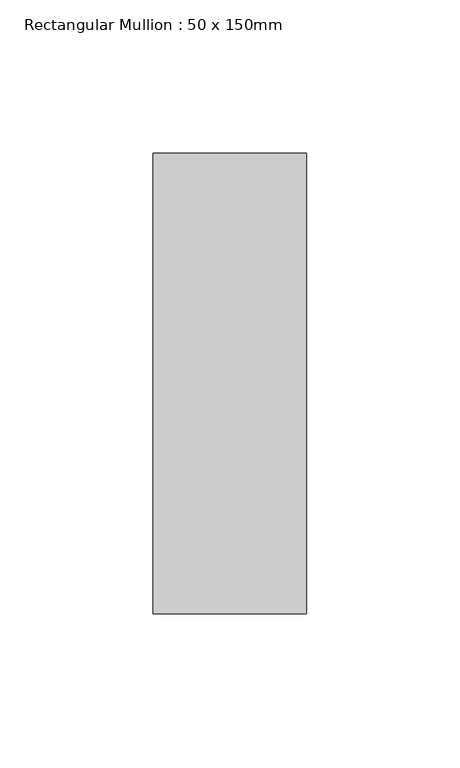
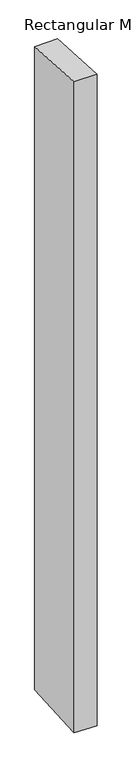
"""IFC4 building model written with IfcOpenShell, lengths in millimetres: member geometry, Rectangular Mullion : 50 x 150mm."""

import ifcopenshell
import ifcopenshell.guid

model = None  # the IFC model being written
_history = None  # IfcOwnerHistory: only IFC2X3 demands one
_inside = {}  # id of a spatial element -> (the spatial element, [elements in it])
_under = {}  # id of a project, library or spatial element -> (it, [spatial elements below it])
_declared = {}  # id of a project -> (the project, [libraries it declares])
_typed = {}  # id of a type object -> (the type object, [elements of that type])
_made_of = {}  # id of a material, layer set ... -> (it, [elements and type objects made of it])


def new_model(schema):
    """Start an empty IFC model of exactly this schema.

    Asked for "IFC4X3", IfcOpenShell would pick the latest addendum, in which some entities
    have other attributes; the version numbers below select the first issue.
    IFC2X3 requires an IfcOwnerHistory on every rooted entity: one is made here for all.
    """
    global model, _history
    if schema == "IFC4X3":
        model = ifcopenshell.file(schema_version=(4, 3, 0, 0))
    else:
        model = ifcopenshell.file(schema=schema)
    _inside.clear()
    _under.clear()
    _declared.clear()
    _typed.clear()
    _made_of.clear()
    _history = None
    if model.schema == "IFC2X3":
        org = make("IfcOrganization", Name="unknown")
        user = make(
            "IfcPersonAndOrganization",
            ThePerson=make("IfcPerson", FamilyName="unknown"),
            TheOrganization=org,
        )
        app = make(
            "IfcApplication",
            ApplicationDeveloper=org,
            Version="unknown",
            ApplicationFullName="unknown",
            ApplicationIdentifier="unknown",
        )
        _history = make(
            "IfcOwnerHistory",
            OwningUser=user,
            OwningApplication=app,
            ChangeAction="ADDED",
            CreationDate=0,
        )
    return model


def make(cls, **values):
    """One entity of the class cls with the attributes given. An attribute that is None is left unset."""
    return model.create_entity(
        cls, **{name: value for name, value in values.items() if value is not None}
    )


def rooted(cls, **values):
    """An entity with a GlobalId (a new one), such as an element, a storey or a relation."""
    return make(cls, GlobalId=ifcopenshell.guid.new(), OwnerHistory=_history, **values)


def si_unit(unit_type, name, prefix=None):
    """IfcSIUnit, for example si_unit("LENGTHUNIT", "METRE", prefix="MILLI")."""
    return make("IfcSIUnit", UnitType=unit_type, Prefix=prefix, Name=name)


def assignment(units):
    """IfcUnitAssignment: the units of a project."""
    return None if units is None else make("IfcUnitAssignment", Units=units)


def point(xyz):
    """IfcCartesianPoint."""
    return None if xyz is None else make("IfcCartesianPoint", Coordinates=xyz)


def direction(xyz):
    """IfcDirection."""
    return None if xyz is None else make("IfcDirection", DirectionRatios=xyz)


def frame(location, z_axis=None, x_axis=None):
    """IfcAxis2Placement3D, a coordinate frame: its origin and axes. An axis left out is left unset."""
    return make(
        "IfcAxis2Placement3D",
        Location=point(location),
        Axis=direction(z_axis),
        RefDirection=direction(x_axis),
    )


def origin():
    """The frame at (0, 0, 0) with its axes left unset."""
    return frame((0.0, 0.0, 0.0))


def place(relative_to, where):
    """IfcLocalPlacement: puts the frame where relative to a parent placement (None: the world)."""
    return make(
        "IfcLocalPlacement", PlacementRelTo=relative_to, RelativePlacement=where
    )


def context(
    kind, dimensions, precision=None, world=None, true_north=None, identifier=None
):
    """IfcGeometricRepresentationContext, for example the 3D "Model" context."""
    return make(
        "IfcGeometricRepresentationContext",
        ContextIdentifier=identifier,
        ContextType=kind,
        CoordinateSpaceDimension=dimensions,
        Precision=precision,
        WorldCoordinateSystem=world,
        TrueNorth=true_north,
    )


def project(units=None, contexts=None):
    """IfcProject with its units and contexts."""
    return rooted(
        "IfcProject",
        Name="project",
        RepresentationContexts=contexts,
        UnitsInContext=assignment(units),
    )


def spatial(cls, under=None, at=None, **own):
    """A site, building, storey or space (cls), placed at a placement, below another one or the project."""
    s = rooted(cls, ObjectPlacement=at, **own)
    if under is not None:
        _under.setdefault(under.id(), (under, []))[1].append(s)
    return s


def faces_of(points, faces, orient=None, outer=None):
    """IfcFace entities. A face is a list of loops; a loop is a list of indices into points, from 0.

    orient and outer hold one flag for each loop. By default every Orientation is true, the
    first loop of a face is its IfcFaceOuterBound and the others are IfcFaceBound.
    """
    made = []
    for i, loops in enumerate(faces):
        bounds = []
        for j, loop in enumerate(loops):
            is_outer = j == 0 if outer is None else outer[i][j]
            bounds.append(
                make(
                    "IfcFaceOuterBound" if is_outer else "IfcFaceBound",
                    Bound=make("IfcPolyLoop", Polygon=[points[k] for k in loop]),
                    Orientation=True if orient is None else orient[i][j],
                )
            )
        made.append(make("IfcFace", Bounds=bounds))
    return made


def faceted_brep(points, faces, orient=None, outer=None, voids=None):
    """IfcFacetedBrep: a solid bounded by flat faces; with voids (closed shells), ...WithVoids."""
    shared = [point(p) for p in points]
    hull = make("IfcClosedShell", CfsFaces=faces_of(shared, faces, orient, outer))
    if voids is None:
        return make("IfcFacetedBrep", Outer=hull)
    return make(
        "IfcFacetedBrepWithVoids",
        Outer=hull,
        Voids=[
            make(cls, CfsFaces=faces_of(shared, fs, o, b)) for cls, fs, o, b in voids
        ],
    )


def shape(context_of_items, identifier, shape_type, items):
    """IfcShapeRepresentation: the items that make up one representation, for example the "Body"."""
    return make(
        "IfcShapeRepresentation",
        ContextOfItems=context_of_items,
        RepresentationIdentifier=identifier,
        RepresentationType=shape_type,
        Items=items,
    )


def source(mapping_origin, context_of_items, identifier, shape_type, items):
    """IfcRepresentationMap: a shape defined once, which mapped items show again and again."""
    return make(
        "IfcRepresentationMap",
        MappingOrigin=mapping_origin,
        MappedRepresentation=shape(context_of_items, identifier, shape_type, items),
    )


def transform(
    local_origin,
    x_axis=None,
    y_axis=None,
    z_axis=None,
    scale=None,
    scale2=None,
    scale3=None,
    uniform=True,
):
    """IfcCartesianTransformationOperator3D, or its non-uniform kind. x_axis, y_axis, z_axis: its Axis1, 2, 3."""
    if uniform:
        return make(
            "IfcCartesianTransformationOperator3D",
            Axis1=direction(x_axis),
            Axis2=direction(y_axis),
            LocalOrigin=point(local_origin),
            Scale=scale,
            Axis3=direction(z_axis),
        )
    return make(
        "IfcCartesianTransformationOperator3DnonUniform",
        Axis1=direction(x_axis),
        Axis2=direction(y_axis),
        LocalOrigin=point(local_origin),
        Scale=scale,
        Axis3=direction(z_axis),
        Scale2=scale2,
        Scale3=scale3,
    )


def mapped(mapping_source, mapping_target):
    """IfcMappedItem: shows the shape of a source again, moved by a transform."""
    return make(
        "IfcMappedItem", MappingSource=mapping_source, MappingTarget=mapping_target
    )


def made_of(thing, what):
    """Note that an element or type object is made of a material, layer set ...; save() writes the relation."""
    if what is not None:
        _made_of.setdefault(what.id(), (what, []))[1].append(thing)
    return thing


def element(
    cls,
    number,
    at=None,
    inside=None,
    cuts=None,
    type_object=None,
    material=None,
    context=None,
    identifier="Body",
    shape_type=None,
    held_by="IfcProductDefinitionShape",
    body=None,
    shapes=None,
    **own,
):
    """One element of the class cls, such as IfcWall. Its Tag is "e" and its number.

    at: its placement. inside: the storey or other place that contains it. cuts: it is an
    opening in that element (IfcRelVoidsElement). A single representation is given by context,
    identifier, shape_type and body (its items); several are given by shapes. held_by: the class
    of the entity that holds the representations. save() writes the other relations.
    """
    e = rooted(cls, Tag="e%d" % number, ObjectPlacement=at, **own)
    if body is not None:
        shapes = [shape(context, identifier, shape_type, body)]
    if shapes is not None:
        e.Representation = make(held_by, Representations=shapes)
    if inside is not None:
        _inside.setdefault(inside.id(), (inside, []))[1].append(e)
    if cuts is not None:
        rooted(
            "IfcRelVoidsElement", RelatingBuildingElement=cuts, RelatedOpeningElement=e
        )
    if type_object is not None:
        _typed.setdefault(type_object.id(), (type_object, []))[1].append(e)
    return made_of(e, material)


def aggregate(whole, parts):
    """IfcRelAggregates: a whole, such as a stair, and the parts it consists of."""
    return rooted("IfcRelAggregates", RelatingObject=whole, RelatedObjects=parts)


def save(model, path):
    """Write the relations noted so far, then the file.

    IfcRelAggregates (storeys below a building ...), IfcRelContainedInSpatialStructure (elements
    in a storey), IfcRelDefinesByType, IfcRelAssociatesMaterial and IfcRelDeclares: one each for
    every whole, place, type object, material and project.
    """
    for whole, parts in _under.values():
        aggregate(whole, parts)
    for where, things in _inside.values():
        rooted(
            "IfcRelContainedInSpatialStructure",
            RelatedElements=things,
            RelatingStructure=where,
        )
    for kind, things in _typed.values():
        rooted("IfcRelDefinesByType", RelatedObjects=things, RelatingType=kind)
    for what, things in _made_of.values():
        rooted("IfcRelAssociatesMaterial", RelatedObjects=things, RelatingMaterial=what)
    for by, libraries in _declared.values():
        rooted("IfcRelDeclares", RelatingContext=by, RelatedDefinitions=libraries)
    model.write(path)


def rectangular_mullion_50_x_150mm_acd3cb19(model_context):
    return source(origin(), model_context, "Body", "Brep", [
        faceted_brep([(-50.0, 75.0, -5.0393636), (0.0, 75.0, -4.7238441), (0.0, 75.0, -1495.2761559), (-50.0, 75.0, -1494.9606364), (-50.0, -75.0, 4.4083246), (-50.0, -75.0, -1504.4083246), (0.0, -75.0, 4.7238441), (0.0, -75.0, -1504.7238441)], [[[0, 1, 2, 3]], [[4, 0, 3, 5]], [[6, 4, 5, 7]], [[1, 6, 7, 2]], [[1, 0, 4, 6]], [[2, 7, 5, 3]]]),
    ])


if __name__ == "__main__":
    model = new_model("IFC4")
    model_context = context("Model", 3, world=origin())
    ifc_project = project(units=[si_unit("LENGTHUNIT", "METRE", prefix="MILLI")], contexts=[model_context])
    site = spatial("IfcSite", under=ifc_project)
    building = spatial("IfcBuilding", under=site)
    placement = place(None, origin())
    rectangular_mullion_50_x_150mm_shape = rectangular_mullion_50_x_150mm_acd3cb19(model_context)
    element("IfcMember", 1, ObjectType="Rectangular Mullion : 50 x 150mm", at=placement, inside=building, context=model_context, shape_type="MappedRepresentation", body=[
        mapped(rectangular_mullion_50_x_150mm_shape, transform((0.0, 0.0, 0.0), x_axis=(1.0, 0.0, 0.0), y_axis=(0.0, 1.0, 0.0), z_axis=(0.0, 0.0, 1.0))),
    ])
    save(model, "model.ifc")
